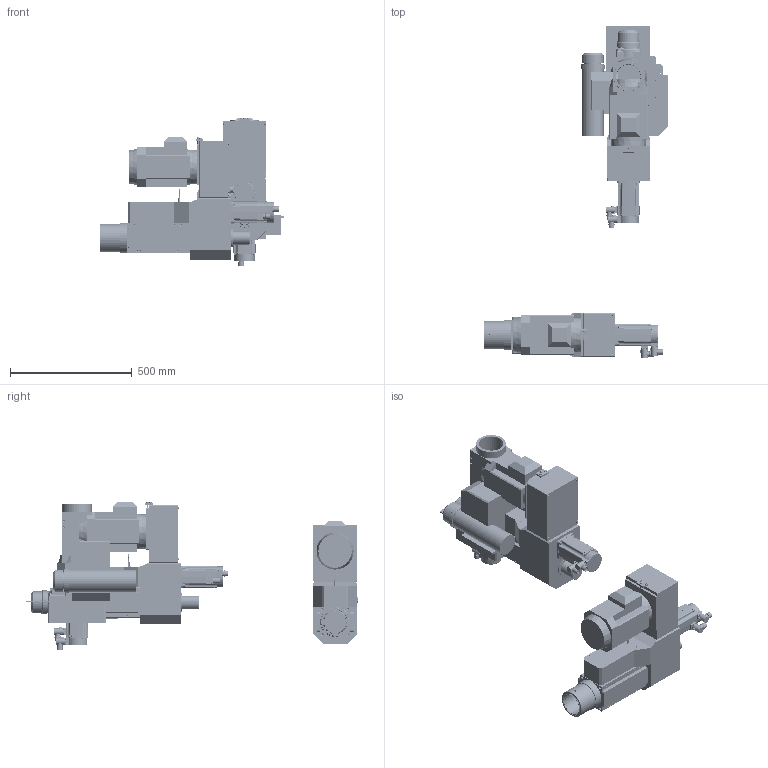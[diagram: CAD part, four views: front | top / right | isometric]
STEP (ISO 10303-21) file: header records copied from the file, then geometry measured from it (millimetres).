
FILE_DESCRIPTION( ( 'STEP AP203' ), '1' );
FILE_NAME( 'C:/Documents and Settings/Saverio/Desktop/disegni ironcad/unità serie 2/FMT 232 CN/FMT 232 CN_ABS50_A.stp', '2013-12-10T11:09:47', ( ' ' ), ( ' ' ), 'XStep 1.0', ' ', ' ' );
FILE_SCHEMA( ( 'CONFIG_CONTROL_DESIGN' ) );
Length unit declared in the file: metre
Products named in the file (40): Assem1; Assem2; Assem3; 1; 2; 3; 4; 5; 6; 7; 8; 9; 10; 11; 12; 13; 14; 15; 16; 17; 18; 19; 20; 21; 22; 23; 24; 25; 26; 27; 28; 29; 30; 31; 32; 33; 34; 35; 36; 37
Bounding box: 756.4 x 1362.82 x 609 mm (x, y, z)
Volume: 84524859.7 mm3; surface area: 5399008.2 mm2
Topology: 131 solids, 134 shells, 4647 faces, 11598 edges, 7568 vertices
Faces by surface type: plane 2267, cylinder 1615, cone 607, torus 86, bspline 72
Full cylindrical faces by diameter (mm): 1 x18, 2 x12, 3 x6, 4 x23, 4.2 x15, 4.5 x48, 4.918 x6, 5 x27, 5.5 x12, 6 x30, 6.5 x3, 7 x53, 7.4 x24, 8 x30, 8.5 x12, 9.87 x3, 10 x9, 13.5 x12, 18.3 x3, 19 x3, 19.2 x3, 20 x21, 21.7 x6, 22.7 x6, 25 x3, 26.7 x6, 28 x3, 35 x3, 42 x3, 42.5 x3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
Entity records: 45857 total; most frequent: CARTESIAN_POINT 11111, DIRECTION 6956, ORIENTED_EDGE 6266, EDGE_CURVE 3133, AXIS2_PLACEMENT_3D 2692, VERTEX_POINT 2250, EDGE_LOOP 1976, FACE_OUTER_BOUND 1636
